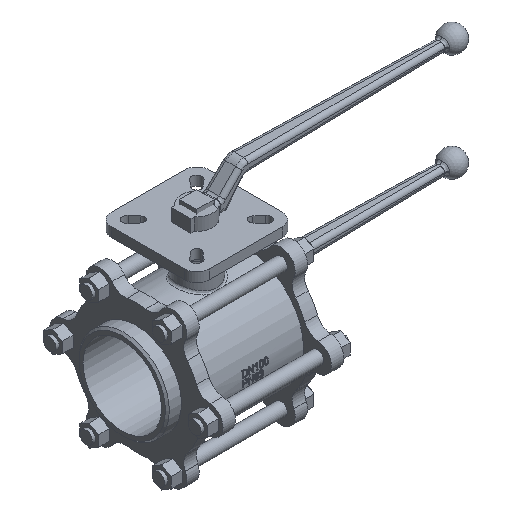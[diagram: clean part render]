
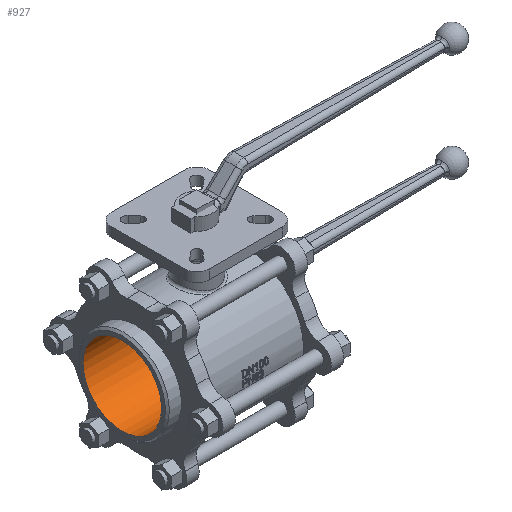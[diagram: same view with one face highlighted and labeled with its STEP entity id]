
A CAD part, isometric view. The second image highlights one B-rep face of the part: STEP entity #927.
In plain terms, the highlighted cylindrical face has radius 50 mm (diameter 100 mm), a full revolution.
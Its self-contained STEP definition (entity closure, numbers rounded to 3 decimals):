
#927 = ADVANCED_FACE( '', ( #2039, #2040 ), #2041, .F. );
#2039 = FACE_OUTER_BOUND( '', #6500, .T. );
#2040 = FACE_OUTER_BOUND( '', #6501, .T. );
#2041 = CYLINDRICAL_SURFACE( '', #6502, 50. );
#6500 = EDGE_LOOP( '', ( #10192 ) );
#6501 = EDGE_LOOP( '', ( #10193 ) );
#6502 = AXIS2_PLACEMENT_3D( '', #10194, #10195, #10196 );
#10192 = ORIENTED_EDGE( '', *, *, #12201, .T. );
#10193 = ORIENTED_EDGE( '', *, *, #12306, .F. );
#10194 = CARTESIAN_POINT( '', ( 240.99, 0., 0. ) );
#10195 = DIRECTION( '', ( 1., 0., 0. ) );
#10196 = DIRECTION( '', ( 0., -1., 0. ) );
#12201 = EDGE_CURVE( '', #14028, #14028, #14029, .F. );
#12306 = EDGE_CURVE( '', #14161, #14161, #14162, .T. );
#14028 = VERTEX_POINT( '', #19876 );
#14029 = CIRCLE( '', #19877, 50. );
#14161 = VERTEX_POINT( '', #20364 );
#14162 = CIRCLE( '', #20365, 50. );
#19876 = CARTESIAN_POINT( '', ( 95., -50., 0. ) );
#19877 = AXIS2_PLACEMENT_3D( '', #21828, #21829, #21830 );
#20364 = CARTESIAN_POINT( '', ( -95., -50., 0. ) );
#20365 = AXIS2_PLACEMENT_3D( '', #21904, #21905, #21906 );
#21828 = CARTESIAN_POINT( '', ( 95., 0., 0. ) );
#21829 = DIRECTION( '', ( -1., 0., 0. ) );
#21830 = DIRECTION( '', ( 0., -1., 0. ) );
#21904 = CARTESIAN_POINT( '', ( -95., 0., 0. ) );
#21905 = DIRECTION( '', ( 1., 0., 0. ) );
#21906 = DIRECTION( '', ( 0., -1., 0. ) );
